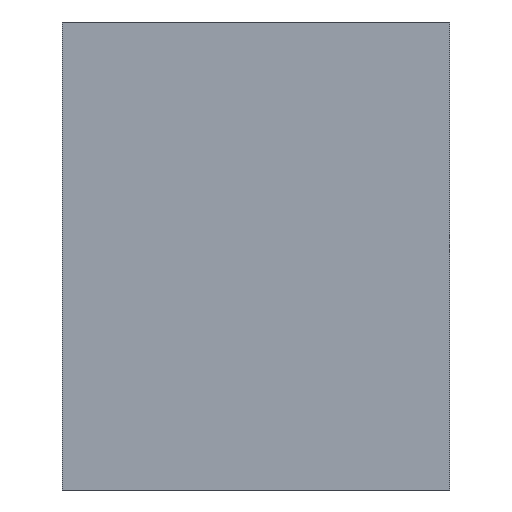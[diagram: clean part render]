
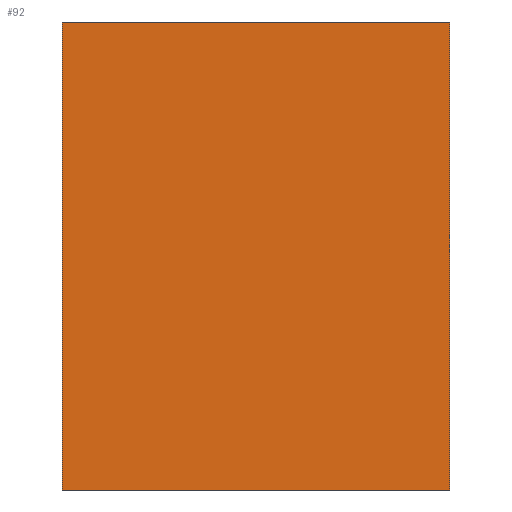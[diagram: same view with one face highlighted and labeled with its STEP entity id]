
A CAD part, top view. The second image highlights one B-rep face of the part: STEP entity #92.
In plain terms, the highlighted planar face has unit normal (0, 0, 1).
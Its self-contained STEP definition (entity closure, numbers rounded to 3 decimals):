
#53=CARTESIAN_POINT('Axis2P3D Location',(0.,0.,0.)) ;
#58=CARTESIAN_POINT('Line Origine',(48.,0.,0.)) ;
#62=CARTESIAN_POINT('Vertex',(0.,0.,0.)) ;
#64=CARTESIAN_POINT('Vertex',(96.,0.,0.)) ;
#67=CARTESIAN_POINT('Line Origine',(96.,58.,0.)) ;
#71=CARTESIAN_POINT('Vertex',(96.,116.,0.)) ;
#74=CARTESIAN_POINT('Line Origine',(48.,116.,0.)) ;
#78=CARTESIAN_POINT('Vertex',(0.,116.,0.)) ;
#81=CARTESIAN_POINT('Line Origine',(0.,58.,0.)) ;
#54=DIRECTION('Axis2P3D Direction',(0.,0.,1.)) ;
#55=DIRECTION('Axis2P3D XDirection',(1.,0.,0.)) ;
#59=DIRECTION('Vector Direction',(1.,0.,0.)) ;
#68=DIRECTION('Vector Direction',(0.,1.,0.)) ;
#75=DIRECTION('Vector Direction',(-1.,0.,0.)) ;
#82=DIRECTION('Vector Direction',(0.,-1.,0.)) ;
#56=AXIS2_PLACEMENT_3D('Plane Axis2P3D',#53,#54,#55) ;
#87=ORIENTED_EDGE('',*,*,#66,.T.) ;
#88=ORIENTED_EDGE('',*,*,#73,.T.) ;
#89=ORIENTED_EDGE('',*,*,#80,.T.) ;
#90=ORIENTED_EDGE('',*,*,#85,.T.) ;
#60=VECTOR('Line Direction',#59,1.) ;
#69=VECTOR('Line Direction',#68,1.) ;
#76=VECTOR('Line Direction',#75,1.) ;
#83=VECTOR('Line Direction',#82,1.) ;
#92=ADVANCED_FACE('Fill.1',(#91),#57,.T.) ;
#66=EDGE_CURVE('',#63,#65,#61,.T.) ;
#73=EDGE_CURVE('',#65,#72,#70,.T.) ;
#80=EDGE_CURVE('',#72,#79,#77,.T.) ;
#85=EDGE_CURVE('',#79,#63,#84,.T.) ;
#86=EDGE_LOOP('',(#87,#88,#89,#90)) ;
#91=FACE_OUTER_BOUND('',#86,.T.) ;
#61=LINE('Line',#58,#60) ;
#70=LINE('Line',#67,#69) ;
#77=LINE('Line',#74,#76) ;
#84=LINE('Line',#81,#83) ;
#57=PLANE('',#56) ;
#63=VERTEX_POINT('',#62) ;
#65=VERTEX_POINT('',#64) ;
#72=VERTEX_POINT('',#71) ;
#79=VERTEX_POINT('',#78) ;
